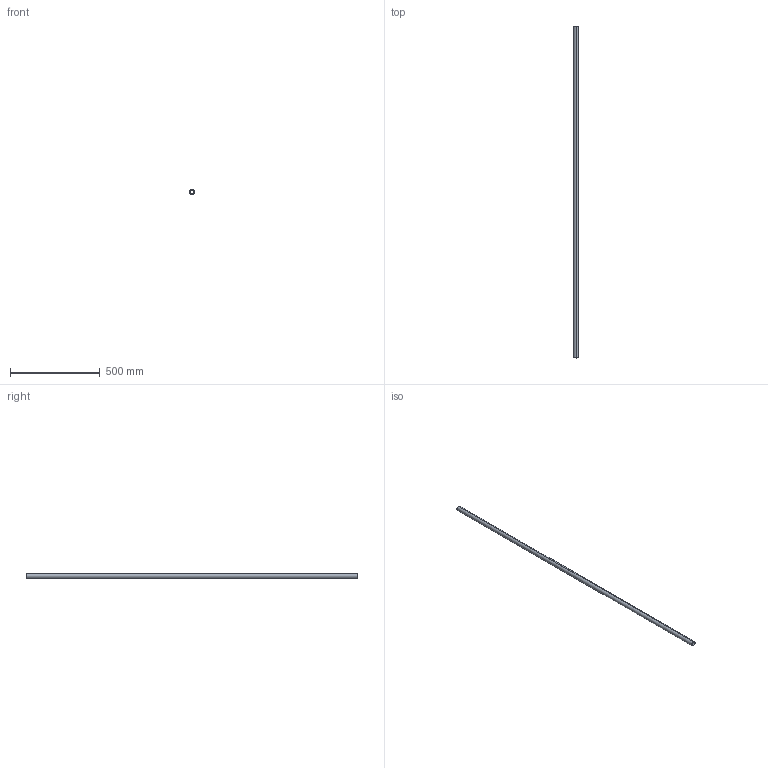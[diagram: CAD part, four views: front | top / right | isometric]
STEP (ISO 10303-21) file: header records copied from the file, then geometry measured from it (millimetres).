
FILE_DESCRIPTION (( 'STEP AP214' ), '1' );
FILE_NAME ('CCJ029-REP.310 - LISSE PLATEFORME INFERIEURE A1-B1.STEP', '2024-01-31T09:54:03', ( '' ), ( '' ), 'SwSTEP 2.0', 'SolidWorks 2021', '' );
FILE_SCHEMA (( 'AUTOMOTIVE_DESIGN' ));
Length unit declared in the file: millimetre
Products named in the file (1): CCJ029-REP.310 - LISSE PLATEFORME INFERIEURE A1-B1
Bounding box: 26.9 x 1851 x 26.9 mm (x, y, z)
Volume: 329017.7 mm3; surface area: 286457.8 mm2
Topology: 1 solids, 1 shells, 6 faces, 12 edges, 8 vertices
Faces by surface type: cylinder 4, plane 2
Entity records: 202 total; most frequent: DIRECTION 34, CARTESIAN_POINT 27, ORIENTED_EDGE 24, AXIS2_PLACEMENT_3D 15, EDGE_CURVE 12, CIRCLE 8, EDGE_LOOP 8, VERTEX_POINT 8
